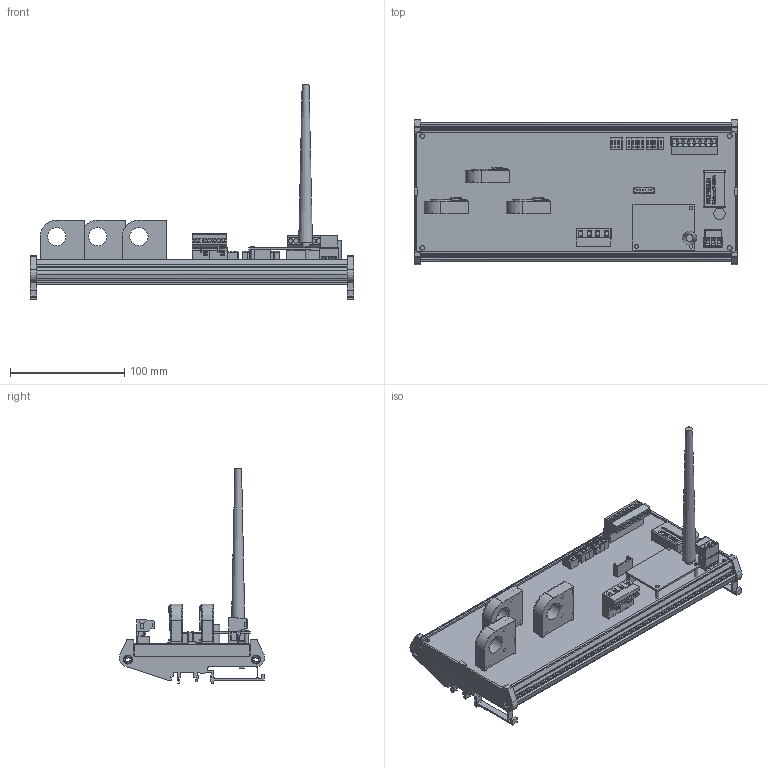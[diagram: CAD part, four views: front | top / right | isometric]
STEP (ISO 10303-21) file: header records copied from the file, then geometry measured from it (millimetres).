
FILE_DESCRIPTION(('FreeCAD Model'),'2;1');
FILE_NAME('C:/3D Files/Stringhe/ST0HS/ST0HS03x00 WR/ST0HS03x00 WR.step', '2022-06-01T16:42:42',('Author'),(''), 'Open CASCADE STEP processor 7.3','FreeCAD','Unknown');
FILE_SCHEMA(('AUTOMOTIVE_DESIGN { 1 0 10303 214 1 1 1 1 }'));
Length unit declared in the file: millimetre
Products named in the file (28): ST0HS03x00_WR; AmpModu_6P_M; DipSwitch4; WRB2403ZP-6WR003; ELNA_470_uF_35_V; Mstb_03P_F; Mstb_03Pc_M; SH04-7,62; PV02-7,62-V-Pa; PV02-7,62-V-Pb; Mstb_8P_F; Mstb_8Pc_M; Hall_Sensor_45_A_CH_1; Hall_Sensor_45_A_CH_2; Spacer-001; Spacer-002; Spacer-003; Strip_7x1; Antenna; E108_Module; Base_Antenna; Hall_Sensor_45_A_CH_3; Stampato_279,7_x_108; Profilo_284x128; DipSwitch005; DipSwitch006; DipSwitch007; DipSwitch008
Assembly tree (27 placements, depth 2):
  ST0HS03x00_WR
    AmpModu_6P_M
    DipSwitch4
    WRB2403ZP-6WR003
    ELNA_470_uF_35_V
    Mstb_03P_F
    Mstb_03Pc_M
    SH04-7,62
    PV02-7,62-V-Pa
    PV02-7,62-V-Pb
    Mstb_8P_F
    Mstb_8Pc_M
    Hall_Sensor_45_A_CH_1
    Hall_Sensor_45_A_CH_2
    Spacer-001
    Spacer-002
    Spacer-003
    Strip_7x1
    Antenna
    E108_Module
    Base_Antenna
    Hall_Sensor_45_A_CH_3
    Stampato_279,7_x_108
    Profilo_284x128
    DipSwitch005
    DipSwitch006
    DipSwitch007
    DipSwitch008
Bounding box: 284 x 127.59 x 188.79 mm (x, y, z)
Volume: 214085.5 mm3; surface area: 267676.7 mm2
Topology: 35 solids, 56 shells, 3407 faces, 9806 edges, 8332 vertices
Faces by surface type: plane 2598, cylinder 495, bspline 185, torus 56, cone 42, sphere 28, extrusion 3
Full cylindrical faces by diameter (mm): 0.75 x52, 1 x10, 1.5 x8, 1.6 x7, 3.1 x3, 3.8 x4, 4 x19, 4.3 x2, 6 x1, 7.9 x4, 9.202 x2, 10 x1
Entity records: 260515 total; most frequent: CARTESIAN_POINT 55427, DIRECTION 32044, VECTOR 22114, LINE 22111, ORIENTED_EDGE 18016, PCURVE 18016, DEFINITIONAL_REPRESENTATION 18016, EDGE_CURVE 9214
